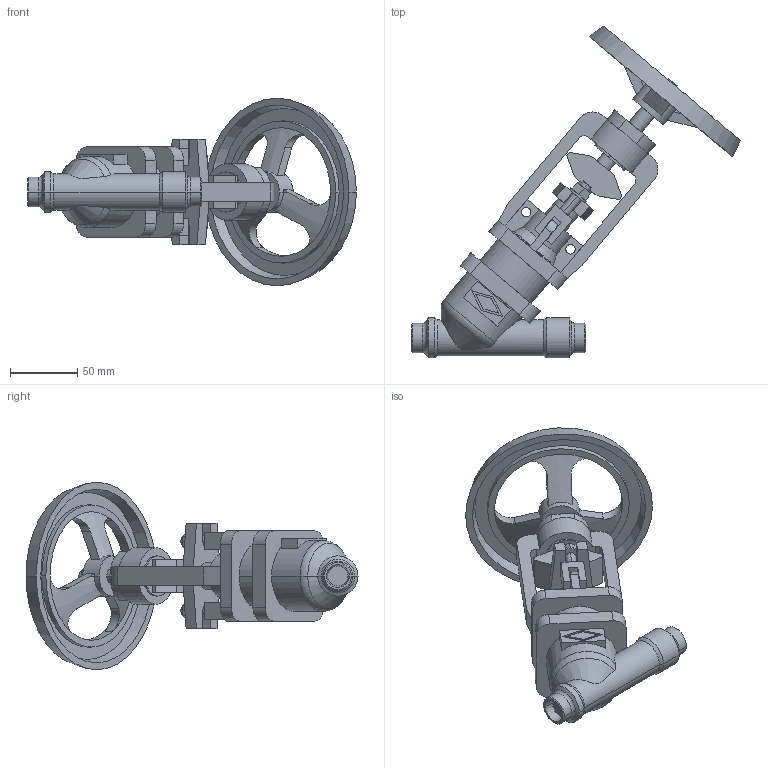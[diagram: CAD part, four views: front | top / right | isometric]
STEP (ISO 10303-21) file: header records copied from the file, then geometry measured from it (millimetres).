
FILE_DESCRIPTION(('OneSpaceDesigner STEP Export'),'2;1');
FILE_NAME('c000004357.stp','2010-05-11T 8:13:11',(''),(''),'OneSpace Designer STEP processor for AP214 (Solid Model)','OneSpace Modeling 15.50B 03-Nov-2007 (C) CoCreate Software GmbH','');
FILE_SCHEMA(('AUTOMOTIVE_DESIGN { 1 0 10303 214 1 1 1 1 }'));
Length unit declared in the file: millimetre
Products named in the file (1): 1
Bounding box: 245.37 x 247.74 x 140 mm (x, y, z)
Volume: 523971.4 mm3; surface area: 112017.3 mm2
Topology: 1 solids, 1 shells, 278 faces, 714 edges, 459 vertices
Faces by surface type: plane 145, cylinder 83, cone 36, torus 14
Entity records: 10576 total; most frequent: CARTESIAN_POINT 1930, ORIENTED_EDGE 1428, DIRECTION 1200, EDGE_CURVE 714, VERTEX_POINT 459, VECTOR 428, LINE 428, AXIS2_PLACEMENT_3D 386
